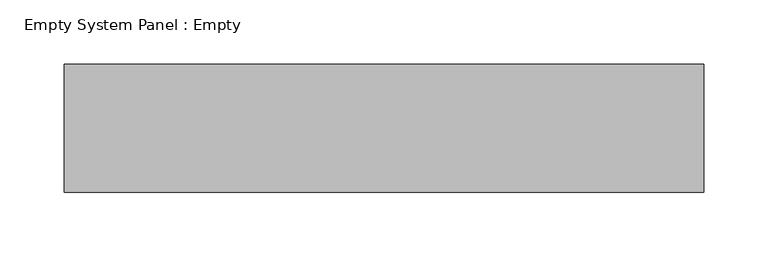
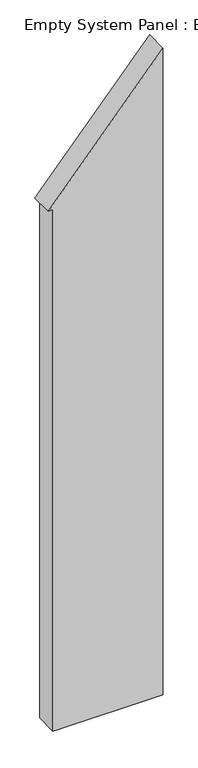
"""IFC4 building model written with IfcOpenShell, lengths in millimetres: plate geometry, Empty System Panel : Empty."""

from ifc_helpers import new_model, si_unit, frame, origin, place, context, project, spatial, polyline, outline, extrude, source, transform, mapped, element, save


def empty_system_panel_empty_6e3ff217(model_context):
    return source(origin(), model_context, "Body", "SweptSolid", [
        extrude(outline(polyline([(0.0, -229.7473037), (0.0, 249.7473037), (2975.6142026, 249.7473037), (2398.9628754, -249.7473037), (2398.9628754, -229.7473037), (0.0, -229.7473037)])), frame((0.0, -50.0, 0.0), z_axis=(0.0, 1.0, 0.0), x_axis=(0.0, 0.0, 1.0)), (0.0, 0.0, 1.0), 100.0),
    ])


if __name__ == "__main__":
    model = new_model("IFC4")
    model_context = context("Model", 3, world=origin())
    ifc_project = project(units=[si_unit("LENGTHUNIT", "METRE", prefix="MILLI")], contexts=[model_context])
    site = spatial("IfcSite", under=ifc_project)
    building = spatial("IfcBuilding", under=site)
    placement = place(None, origin())
    empty_system_panel_empty_shape = empty_system_panel_empty_6e3ff217(model_context)
    element("IfcPlate", 1, ObjectType="Empty System Panel : Empty", at=placement, inside=building, context=model_context, shape_type="MappedRepresentation", body=[
        mapped(empty_system_panel_empty_shape, transform((0.0, 0.0, 0.0), x_axis=(1.0, 0.0, 0.0), y_axis=(0.0, 1.0, 0.0), z_axis=(0.0, 0.0, 1.0))),
    ])
    save(model, "model.ifc")
